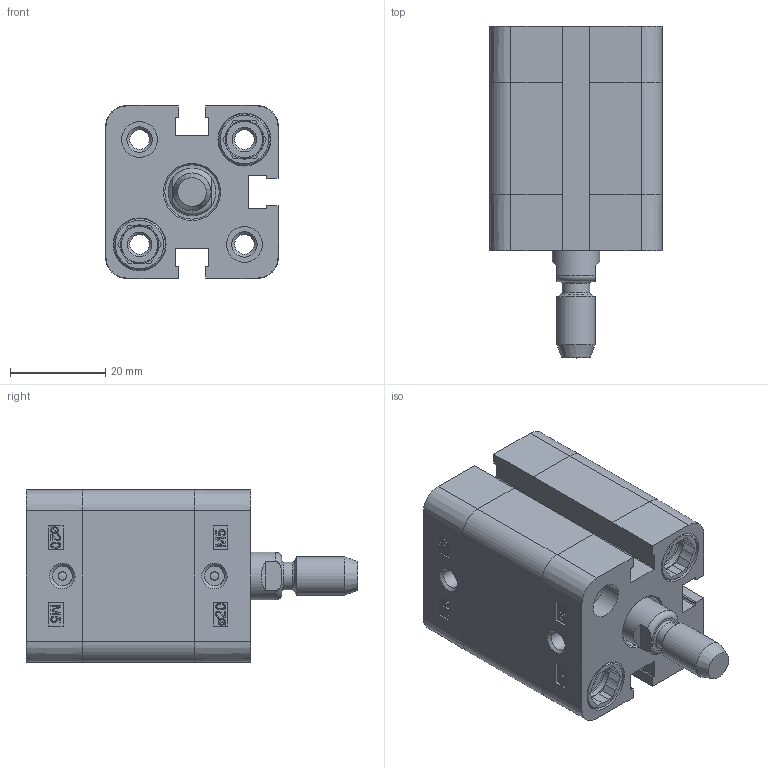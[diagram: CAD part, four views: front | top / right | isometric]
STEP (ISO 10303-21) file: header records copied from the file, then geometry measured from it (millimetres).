
FILE_DESCRIPTION((''),'2;1');
FILE_NAME('T:\Archivio Inventor\- CATALOGHI 2012\SERIE P - NUOVA\PDM\PDM020\PDM020.---.GS.M\STEP\PDM020.010.GS.M.stp','2013-01-30T10:52:48',('Administrator'),(''),'Autodesk Inventor 2012','Autodesk Inventor 2012','');
FILE_SCHEMA(('CONFIG_CONTROL_DESIGN'));
Length unit declared in the file: millimetre
Products named in the file (1): PDM020.010.GS.M
Bounding box: 36.3 x 69.6 x 36.3 mm (x, y, z)
Volume: 39286.4 mm3; surface area: 21785.2 mm2
Topology: 1 solids, 3 shells, 489 faces, 1225 edges, 798 vertices
Faces by surface type: plane 245, bspline 94, cylinder 88, cone 50, torus 12
Full cylindrical faces by diameter (mm): 1.75 x2, 4.134 x10, 5.8 x1, 7.5 x4, 7.55 x2, 8 x9, 9 x1, 10 x1, 10.8 x4, 11.1 x4, 11.4 x1, 20 x1, 22.3 x1, 22.5 x1
Entity records: 15051 total; most frequent: CARTESIAN_POINT 3734, ORIENTED_EDGE 2232, DIRECTION 1950, EDGE_CURVE 1116, VERTEX_POINT 782, VECTOR 670, LINE 670, EDGE_LOOP 652
